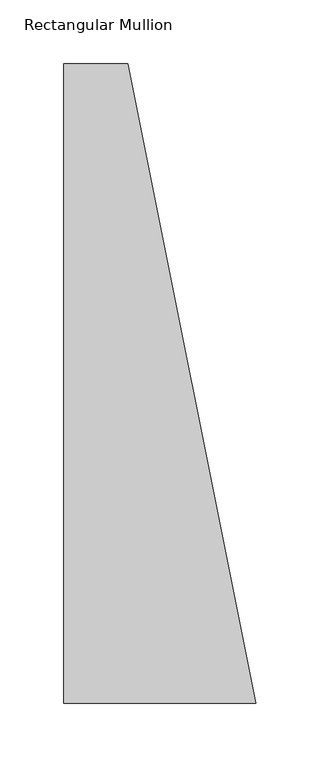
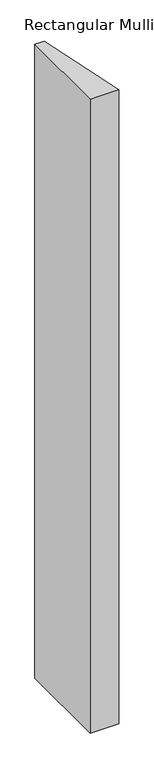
"""IFC4 building model written with IfcOpenShell, lengths in millimetres: member geometry, Rectangular Mullion : 500(350+150)x150x50mm."""

import ifcopenshell
import ifcopenshell.guid

model = None  # the IFC model being written
_history = None  # IfcOwnerHistory: only IFC2X3 demands one
_inside = {}  # id of a spatial element -> (the spatial element, [elements in it])
_under = {}  # id of a project, library or spatial element -> (it, [spatial elements below it])
_declared = {}  # id of a project -> (the project, [libraries it declares])
_typed = {}  # id of a type object -> (the type object, [elements of that type])
_made_of = {}  # id of a material, layer set ... -> (it, [elements and type objects made of it])


def new_model(schema):
    """Start an empty IFC model of exactly this schema.

    Asked for "IFC4X3", IfcOpenShell would pick the latest addendum, in which some entities
    have other attributes; the version numbers below select the first issue.
    IFC2X3 requires an IfcOwnerHistory on every rooted entity: one is made here for all.
    """
    global model, _history
    if schema == "IFC4X3":
        model = ifcopenshell.file(schema_version=(4, 3, 0, 0))
    else:
        model = ifcopenshell.file(schema=schema)
    _inside.clear()
    _under.clear()
    _declared.clear()
    _typed.clear()
    _made_of.clear()
    _history = None
    if model.schema == "IFC2X3":
        org = make("IfcOrganization", Name="unknown")
        user = make(
            "IfcPersonAndOrganization",
            ThePerson=make("IfcPerson", FamilyName="unknown"),
            TheOrganization=org,
        )
        app = make(
            "IfcApplication",
            ApplicationDeveloper=org,
            Version="unknown",
            ApplicationFullName="unknown",
            ApplicationIdentifier="unknown",
        )
        _history = make(
            "IfcOwnerHistory",
            OwningUser=user,
            OwningApplication=app,
            ChangeAction="ADDED",
            CreationDate=0,
        )
    return model


def make(cls, **values):
    """One entity of the class cls with the attributes given. An attribute that is None is left unset."""
    return model.create_entity(
        cls, **{name: value for name, value in values.items() if value is not None}
    )


def rooted(cls, **values):
    """An entity with a GlobalId (a new one), such as an element, a storey or a relation."""
    return make(cls, GlobalId=ifcopenshell.guid.new(), OwnerHistory=_history, **values)


def si_unit(unit_type, name, prefix=None):
    """IfcSIUnit, for example si_unit("LENGTHUNIT", "METRE", prefix="MILLI")."""
    return make("IfcSIUnit", UnitType=unit_type, Prefix=prefix, Name=name)


def assignment(units):
    """IfcUnitAssignment: the units of a project."""
    return None if units is None else make("IfcUnitAssignment", Units=units)


def point(xyz):
    """IfcCartesianPoint."""
    return None if xyz is None else make("IfcCartesianPoint", Coordinates=xyz)


def direction(xyz):
    """IfcDirection."""
    return None if xyz is None else make("IfcDirection", DirectionRatios=xyz)


def frame(location, z_axis=None, x_axis=None):
    """IfcAxis2Placement3D, a coordinate frame: its origin and axes. An axis left out is left unset."""
    return make(
        "IfcAxis2Placement3D",
        Location=point(location),
        Axis=direction(z_axis),
        RefDirection=direction(x_axis),
    )


def origin():
    """The frame at (0, 0, 0) with its axes left unset."""
    return frame((0.0, 0.0, 0.0))


def place(relative_to, where):
    """IfcLocalPlacement: puts the frame where relative to a parent placement (None: the world)."""
    return make(
        "IfcLocalPlacement", PlacementRelTo=relative_to, RelativePlacement=where
    )


def context(
    kind, dimensions, precision=None, world=None, true_north=None, identifier=None
):
    """IfcGeometricRepresentationContext, for example the 3D "Model" context."""
    return make(
        "IfcGeometricRepresentationContext",
        ContextIdentifier=identifier,
        ContextType=kind,
        CoordinateSpaceDimension=dimensions,
        Precision=precision,
        WorldCoordinateSystem=world,
        TrueNorth=true_north,
    )


def project(units=None, contexts=None):
    """IfcProject with its units and contexts."""
    return rooted(
        "IfcProject",
        Name="project",
        RepresentationContexts=contexts,
        UnitsInContext=assignment(units),
    )


def spatial(cls, under=None, at=None, **own):
    """A site, building, storey or space (cls), placed at a placement, below another one or the project."""
    s = rooted(cls, ObjectPlacement=at, **own)
    if under is not None:
        _under.setdefault(under.id(), (under, []))[1].append(s)
    return s


def polyline(points):
    """IfcPolyline through the points."""
    return make("IfcPolyline", Points=[point(p) for p in points])


def outline(outer, holes=None, kind="AREA"):
    """IfcArbitraryClosedProfileDef: a profile drawn as a closed curve; with holes, ...WithVoids."""
    if holes is None:
        return make("IfcArbitraryClosedProfileDef", ProfileType=kind, OuterCurve=outer)
    return make(
        "IfcArbitraryProfileDefWithVoids",
        ProfileType=kind,
        OuterCurve=outer,
        InnerCurves=holes,
    )


def extrude(swept, where, along, depth):
    """IfcExtrudedAreaSolid: the profile swept, set in the frame where, extruded along a direction by depth."""
    return make(
        "IfcExtrudedAreaSolid",
        SweptArea=swept,
        Position=where,
        ExtrudedDirection=direction(along),
        Depth=depth,
    )


def shape(context_of_items, identifier, shape_type, items):
    """IfcShapeRepresentation: the items that make up one representation, for example the "Body"."""
    return make(
        "IfcShapeRepresentation",
        ContextOfItems=context_of_items,
        RepresentationIdentifier=identifier,
        RepresentationType=shape_type,
        Items=items,
    )


def source(mapping_origin, context_of_items, identifier, shape_type, items):
    """IfcRepresentationMap: a shape defined once, which mapped items show again and again."""
    return make(
        "IfcRepresentationMap",
        MappingOrigin=mapping_origin,
        MappedRepresentation=shape(context_of_items, identifier, shape_type, items),
    )


def transform(
    local_origin,
    x_axis=None,
    y_axis=None,
    z_axis=None,
    scale=None,
    scale2=None,
    scale3=None,
    uniform=True,
):
    """IfcCartesianTransformationOperator3D, or its non-uniform kind. x_axis, y_axis, z_axis: its Axis1, 2, 3."""
    if uniform:
        return make(
            "IfcCartesianTransformationOperator3D",
            Axis1=direction(x_axis),
            Axis2=direction(y_axis),
            LocalOrigin=point(local_origin),
            Scale=scale,
            Axis3=direction(z_axis),
        )
    return make(
        "IfcCartesianTransformationOperator3DnonUniform",
        Axis1=direction(x_axis),
        Axis2=direction(y_axis),
        LocalOrigin=point(local_origin),
        Scale=scale,
        Axis3=direction(z_axis),
        Scale2=scale2,
        Scale3=scale3,
    )


def mapped(mapping_source, mapping_target):
    """IfcMappedItem: shows the shape of a source again, moved by a transform."""
    return make(
        "IfcMappedItem", MappingSource=mapping_source, MappingTarget=mapping_target
    )


def made_of(thing, what):
    """Note that an element or type object is made of a material, layer set ...; save() writes the relation."""
    if what is not None:
        _made_of.setdefault(what.id(), (what, []))[1].append(thing)
    return thing


def element(
    cls,
    number,
    at=None,
    inside=None,
    cuts=None,
    type_object=None,
    material=None,
    context=None,
    identifier="Body",
    shape_type=None,
    held_by="IfcProductDefinitionShape",
    body=None,
    shapes=None,
    **own,
):
    """One element of the class cls, such as IfcWall. Its Tag is "e" and its number.

    at: its placement. inside: the storey or other place that contains it. cuts: it is an
    opening in that element (IfcRelVoidsElement). A single representation is given by context,
    identifier, shape_type and body (its items); several are given by shapes. held_by: the class
    of the entity that holds the representations. save() writes the other relations.
    """
    e = rooted(cls, Tag="e%d" % number, ObjectPlacement=at, **own)
    if body is not None:
        shapes = [shape(context, identifier, shape_type, body)]
    if shapes is not None:
        e.Representation = make(held_by, Representations=shapes)
    if inside is not None:
        _inside.setdefault(inside.id(), (inside, []))[1].append(e)
    if cuts is not None:
        rooted(
            "IfcRelVoidsElement", RelatingBuildingElement=cuts, RelatedOpeningElement=e
        )
    if type_object is not None:
        _typed.setdefault(type_object.id(), (type_object, []))[1].append(e)
    return made_of(e, material)


def aggregate(whole, parts):
    """IfcRelAggregates: a whole, such as a stair, and the parts it consists of."""
    return rooted("IfcRelAggregates", RelatingObject=whole, RelatedObjects=parts)


def save(model, path):
    """Write the relations noted so far, then the file.

    IfcRelAggregates (storeys below a building ...), IfcRelContainedInSpatialStructure (elements
    in a storey), IfcRelDefinesByType, IfcRelAssociatesMaterial and IfcRelDeclares: one each for
    every whole, place, type object, material and project.
    """
    for whole, parts in _under.values():
        aggregate(whole, parts)
    for where, things in _inside.values():
        rooted(
            "IfcRelContainedInSpatialStructure",
            RelatedElements=things,
            RelatingStructure=where,
        )
    for kind, things in _typed.values():
        rooted("IfcRelDefinesByType", RelatedObjects=things, RelatingType=kind)
    for what, things in _made_of.values():
        rooted("IfcRelAssociatesMaterial", RelatedObjects=things, RelatingMaterial=what)
    for by, libraries in _declared.values():
        rooted("IfcRelDeclares", RelatingContext=by, RelatedDefinitions=libraries)
    model.write(path)


def rectangular_mullion_e50f3f4c(model_context):
    return source(origin(), model_context, "Body", "SweptSolid", [
        extrude(outline(polyline([(-150.0, 150.0), (-100.0, 150.0), (0.0, -350.0), (-150.0, -350.0), (-150.0, 150.0)])), frame((0.0, 0.0, -3500.0), z_axis=(0.0, 0.0, 1.0), x_axis=(1.0, 0.0, 0.0)), (0.0, 0.0, 1.0), 3500.0),
    ])


if __name__ == "__main__":
    model = new_model("IFC4")
    model_context = context("Model", 3, world=origin())
    ifc_project = project(units=[si_unit("LENGTHUNIT", "METRE", prefix="MILLI")], contexts=[model_context])
    site = spatial("IfcSite", under=ifc_project)
    building = spatial("IfcBuilding", under=site)
    placement = place(None, origin())
    rectangular_mullion_shape = rectangular_mullion_e50f3f4c(model_context)
    element("IfcMember", 1, ObjectType="Rectangular Mullion : 500(350+150)x150x50mm", at=placement, inside=building, context=model_context, shape_type="MappedRepresentation", body=[
        mapped(rectangular_mullion_shape, transform((0.0, 0.0, 0.0), x_axis=(1.0, 0.0, 0.0), y_axis=(0.0, 1.0, 0.0), z_axis=(0.0, 0.0, 1.0))),
    ])
    save(model, "model.ifc")
